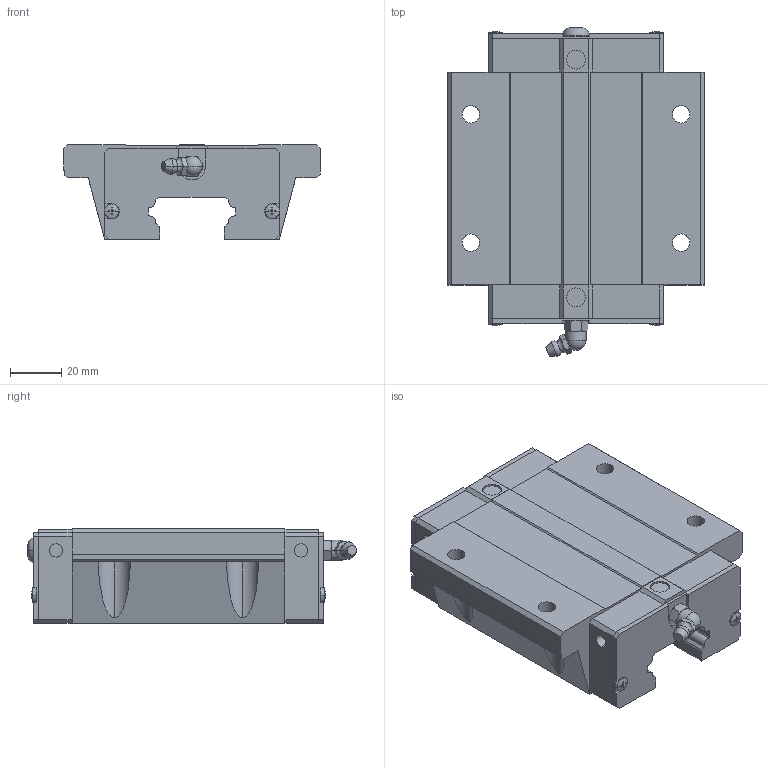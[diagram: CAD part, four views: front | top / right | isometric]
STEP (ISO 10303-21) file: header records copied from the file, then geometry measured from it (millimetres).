
FILE_DESCRIPTION(('no description'),'unknown implementation level');
FILE_NAME('QEW35CC_Z0_H_SS_3.stp',' ',('HIWIN GmbH'),('CADClick - KiM GmbH - www.kimweb.de'),'unknown preprocess','ACIS','unknown authorization');
FILE_SCHEMA(('automotive_design'));
Length unit declared in the file: millimetre
Products named in the file (1): QEW35CC Z0 H SS
Bounding box: 100 x 128.11 x 37 mm (x, y, z)
Volume: 266681 mm3; surface area: 40418.7 mm2
Topology: 1 solids, 5 shells, 356 faces, 959 edges, 621 vertices
Faces by surface type: plane 210, cylinder 88, cone 38, torus 18, sphere 2
Entity records: 22256 total; most frequent: CARTESIAN_POINT 2631, STYLED_ITEM 1935, PRESENTATION_STYLE_ASSIGNMENT 1935, COLOUR_RGB 1935, ORIENTED_EDGE 1914, DIRECTION 1812, EDGE_CURVE 957, CURVE_STYLE 957
